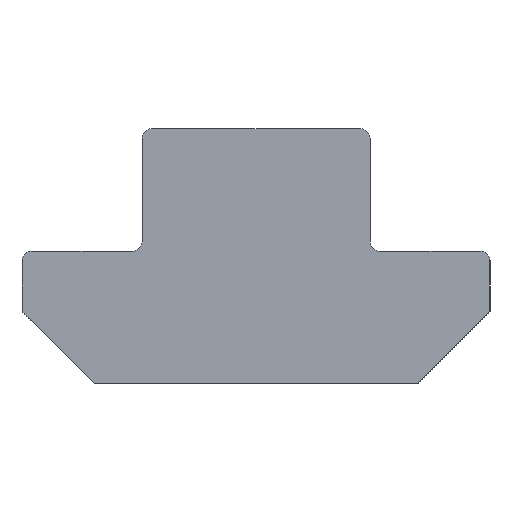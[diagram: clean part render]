
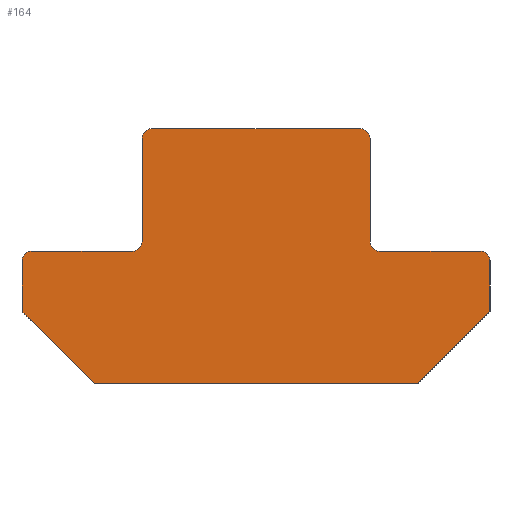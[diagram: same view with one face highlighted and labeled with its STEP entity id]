
A CAD part, left-side view. The second image highlights one B-rep face of the part: STEP entity #164.
In plain terms, the highlighted planar face has unit normal (-1, 0, 0).
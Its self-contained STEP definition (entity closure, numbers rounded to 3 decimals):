
#6 = DIRECTION ( 'NONE',  ( 0., 0., 1. ) ) ;
#7 = VECTOR ( 'NONE', #155, 1000. ) ;
#10 = CARTESIAN_POINT ( 'NONE',  ( -10., 9.75, -0.4 ) ) ;
#11 = DIRECTION ( 'NONE',  ( 1., 0., 0. ) ) ;
#13 = DIRECTION ( 'NONE',  ( 0., 0., 1. ) ) ;
#15 = VERTEX_POINT ( 'NONE', #441 ) ;
#16 = DIRECTION ( 'NONE',  ( 0., 0., 1. ) ) ;
#21 = LINE ( 'NONE', #585, #166 ) ;
#36 = CARTESIAN_POINT ( 'NONE',  ( -10., -4.35, -0.4 ) ) ;
#37 = ORIENTED_EDGE ( 'NONE', *, *, #531, .F. ) ;
#38 = CARTESIAN_POINT ( 'NONE',  ( -10., 4.75, -4.7 ) ) ;
#40 = EDGE_CURVE ( 'NONE', #505, #382, #703, .T. ) ;
#42 = CARTESIAN_POINT ( 'NONE',  ( -10., 5.15, -4.7 ) ) ;
#56 = DIRECTION ( 'NONE',  ( 0., 0., -1. ) ) ;
#57 = LINE ( 'NONE', #352, #499 ) ;
#60 = CARTESIAN_POINT ( 'NONE',  ( -10., 4.75, -0.4 ) ) ;
#78 = EDGE_CURVE ( 'NONE', #545, #132, #97, .T. ) ;
#82 = EDGE_CURVE ( 'NONE', #388, #382, #626, .T. ) ;
#83 = CARTESIAN_POINT ( 'NONE',  ( -10., -4.75, -0.4 ) ) ;
#84 = DIRECTION ( 'NONE',  ( 0., 0.707, 0.707 ) ) ;
#96 = EDGE_CURVE ( 'NONE', #132, #332, #57, .T. ) ;
#97 = LINE ( 'NONE', #323, #7 ) ;
#99 = AXIS2_PLACEMENT_3D ( 'NONE', #229, #11, #518 ) ;
#107 = CARTESIAN_POINT ( 'NONE',  ( -10., 9.35, -5.1 ) ) ;
#111 = AXIS2_PLACEMENT_3D ( 'NONE', #334, #165, #670 ) ;
#114 = EDGE_CURVE ( 'NONE', #231, #246, #613, .T. ) ;
#115 = FACE_OUTER_BOUND ( 'NONE', #142, .T. ) ;
#121 = DIRECTION ( 'NONE',  ( 0., -1., 0. ) ) ;
#123 = VECTOR ( 'NONE', #13, 1000. ) ;
#124 = ORIENTED_EDGE ( 'NONE', *, *, #226, .F. ) ;
#125 = EDGE_CURVE ( 'NONE', #246, #545, #487, .T. ) ;
#127 = ORIENTED_EDGE ( 'NONE', *, *, #125, .F. ) ;
#132 = VERTEX_POINT ( 'NONE', #222 ) ;
#134 = DIRECTION ( 'NONE',  ( 0., -1., 0. ) ) ;
#142 = EDGE_LOOP ( 'NONE', ( #124, #243, #685, #643, #37, #552, #436, #195, #391, #127, #483, #450, #258, #574, #549, #216 ) ) ;
#143 = DIRECTION ( 'NONE',  ( 1., 0., 0. ) ) ;
#144 = CARTESIAN_POINT ( 'NONE',  ( -10., -5.15, -5.1 ) ) ;
#149 = CARTESIAN_POINT ( 'NONE',  ( -10., 4.35, -0.4 ) ) ;
#150 = VERTEX_POINT ( 'NONE', #676 ) ;
#155 = DIRECTION ( 'NONE',  ( 0., 0., -1. ) ) ;
#164 = ADVANCED_FACE ( 'NONE', ( #115 ), #679, .F. ) ;
#165 = DIRECTION ( 'NONE',  ( 1., 0., 0. ) ) ;
#166 = VECTOR ( 'NONE', #84, 1000. ) ;
#167 = DIRECTION ( 'NONE',  ( 0., 0.707, -0.707 ) ) ;
#177 = DIRECTION ( 'NONE',  ( 1., 0., 0. ) ) ;
#193 = CIRCLE ( 'NONE', #607, 0.4 ) ;
#195 = ORIENTED_EDGE ( 'NONE', *, *, #96, .F. ) ;
#203 = DIRECTION ( 'NONE',  ( 0., -1., 0. ) ) ;
#213 = CARTESIAN_POINT ( 'NONE',  ( -10., 4.35, -5.1 ) ) ;
#216 = ORIENTED_EDGE ( 'NONE', *, *, #471, .F. ) ;
#217 = VECTOR ( 'NONE', #134, 1000. ) ;
#221 = LINE ( 'NONE', #563, #524 ) ;
#222 = CARTESIAN_POINT ( 'NONE',  ( -10., -9.75, -7.6 ) ) ;
#226 = EDGE_CURVE ( 'NONE', #388, #581, #346, .T. ) ;
#227 = LINE ( 'NONE', #10, #123 ) ;
#229 = CARTESIAN_POINT ( 'NONE',  ( -10., -9.35, -5.5 ) ) ;
#231 = VERTEX_POINT ( 'NONE', #144 ) ;
#242 = CIRCLE ( 'NONE', #681, 0.4 ) ;
#243 = ORIENTED_EDGE ( 'NONE', *, *, #82, .T. ) ;
#246 = VERTEX_POINT ( 'NONE', #359 ) ;
#249 = CARTESIAN_POINT ( 'NONE',  ( -10., -6.75, -10.6 ) ) ;
#256 = CARTESIAN_POINT ( 'NONE',  ( -10., -6.75, -10.6 ) ) ;
#258 = ORIENTED_EDGE ( 'NONE', *, *, #542, .F. ) ;
#260 = EDGE_CURVE ( 'NONE', #636, #533, #21, .T. ) ;
#277 = VECTOR ( 'NONE', #121, 1000. ) ;
#280 = CARTESIAN_POINT ( 'NONE',  ( -10., 9.75, -5.5 ) ) ;
#283 = CARTESIAN_POINT ( 'NONE',  ( -10., 4.75, -0.4 ) ) ;
#298 = LINE ( 'NONE', #520, #217 ) ;
#316 = EDGE_CURVE ( 'NONE', #636, #332, #684, .T. ) ;
#323 = CARTESIAN_POINT ( 'NONE',  ( -10., -9.75, -0.4 ) ) ;
#324 = EDGE_CURVE ( 'NONE', #559, #150, #298, .T. ) ;
#332 = VERTEX_POINT ( 'NONE', #249 ) ;
#334 = CARTESIAN_POINT ( 'NONE',  ( -10., -5.15, -4.7 ) ) ;
#337 = CIRCLE ( 'NONE', #605, 0.4 ) ;
#341 = CARTESIAN_POINT ( 'NONE',  ( -10., 6.75, -10.6 ) ) ;
#346 = LINE ( 'NONE', #60, #476 ) ;
#349 = AXIS2_PLACEMENT_3D ( 'NONE', #42, #384, #6 ) ;
#352 = CARTESIAN_POINT ( 'NONE',  ( -10., -9.75, -7.6 ) ) ;
#359 = CARTESIAN_POINT ( 'NONE',  ( -10., -9.35, -5.1 ) ) ;
#382 = VERTEX_POINT ( 'NONE', #652 ) ;
#384 = DIRECTION ( 'NONE',  ( 1., 0., 0. ) ) ;
#388 = VERTEX_POINT ( 'NONE', #38 ) ;
#391 = ORIENTED_EDGE ( 'NONE', *, *, #78, .F. ) ;
#433 = CIRCLE ( 'NONE', #111, 0.4 ) ;
#434 = EDGE_CURVE ( 'NONE', #150, #692, #242, .T. ) ;
#436 = ORIENTED_EDGE ( 'NONE', *, *, #316, .T. ) ;
#441 = CARTESIAN_POINT ( 'NONE',  ( -10., -4.75, -4.7 ) ) ;
#449 = CARTESIAN_POINT ( 'NONE',  ( -10., 4.35, -0.4 ) ) ;
#450 = ORIENTED_EDGE ( 'NONE', *, *, #567, .T. ) ;
#455 = DIRECTION ( 'NONE',  ( 0., 0., -1. ) ) ;
#471 = EDGE_CURVE ( 'NONE', #581, #559, #337, .T. ) ;
#472 = CARTESIAN_POINT ( 'NONE',  ( -10., 9.35, -5.5 ) ) ;
#476 = VECTOR ( 'NONE', #514, 1000. ) ;
#483 = ORIENTED_EDGE ( 'NONE', *, *, #114, .F. ) ;
#487 = CIRCLE ( 'NONE', #99, 0.4 ) ;
#490 = DIRECTION ( 'NONE',  ( 0., 0., 1. ) ) ;
#496 = DIRECTION ( 'NONE',  ( 1., 0., 0. ) ) ;
#499 = VECTOR ( 'NONE', #167, 1000. ) ;
#505 = VERTEX_POINT ( 'NONE', #107 ) ;
#508 = CARTESIAN_POINT ( 'NONE',  ( -10., 4.35, -5.1 ) ) ;
#514 = DIRECTION ( 'NONE',  ( 0., 0., 1. ) ) ;
#516 = CARTESIAN_POINT ( 'NONE',  ( -10., -9.75, -5.5 ) ) ;
#518 = DIRECTION ( 'NONE',  ( 0., 0., 1. ) ) ;
#520 = CARTESIAN_POINT ( 'NONE',  ( -10., 4.35, 0. ) ) ;
#524 = VECTOR ( 'NONE', #56, 1000. ) ;
#530 = VERTEX_POINT ( 'NONE', #280 ) ;
#531 = EDGE_CURVE ( 'NONE', #533, #530, #227, .T. ) ;
#533 = VERTEX_POINT ( 'NONE', #569 ) ;
#542 = EDGE_CURVE ( 'NONE', #692, #15, #221, .T. ) ;
#545 = VERTEX_POINT ( 'NONE', #516 ) ;
#548 = DIRECTION ( 'NONE',  ( 0., 0., 1. ) ) ;
#549 = ORIENTED_EDGE ( 'NONE', *, *, #324, .F. ) ;
#552 = ORIENTED_EDGE ( 'NONE', *, *, #260, .F. ) ;
#559 = VERTEX_POINT ( 'NONE', #610 ) ;
#563 = CARTESIAN_POINT ( 'NONE',  ( -10., -4.75, -0.4 ) ) ;
#567 = EDGE_CURVE ( 'NONE', #231, #15, #433, .T. ) ;
#569 = CARTESIAN_POINT ( 'NONE',  ( -10., 9.75, -7.6 ) ) ;
#574 = ORIENTED_EDGE ( 'NONE', *, *, #434, .F. ) ;
#577 = VECTOR ( 'NONE', #203, 1000. ) ;
#581 = VERTEX_POINT ( 'NONE', #283 ) ;
#585 = CARTESIAN_POINT ( 'NONE',  ( -10., 6.75, -10.6 ) ) ;
#597 = DIRECTION ( 'NONE',  ( 1., 0., 0. ) ) ;
#603 = VECTOR ( 'NONE', #645, 1000. ) ;
#605 = AXIS2_PLACEMENT_3D ( 'NONE', #149, #496, #490 ) ;
#607 = AXIS2_PLACEMENT_3D ( 'NONE', #472, #143, #16 ) ;
#610 = CARTESIAN_POINT ( 'NONE',  ( -10., 4.35, 0. ) ) ;
#613 = LINE ( 'NONE', #508, #277 ) ;
#626 = CIRCLE ( 'NONE', #349, 0.4 ) ;
#636 = VERTEX_POINT ( 'NONE', #341 ) ;
#643 = ORIENTED_EDGE ( 'NONE', *, *, #697, .F. ) ;
#645 = DIRECTION ( 'NONE',  ( 0., -1., 0. ) ) ;
#652 = CARTESIAN_POINT ( 'NONE',  ( -10., 5.15, -5.1 ) ) ;
#670 = DIRECTION ( 'NONE',  ( 0., 0., 1. ) ) ;
#676 = CARTESIAN_POINT ( 'NONE',  ( -10., -4.35, 0. ) ) ;
#679 = PLANE ( 'NONE',  #693 ) ;
#681 = AXIS2_PLACEMENT_3D ( 'NONE', #36, #597, #548 ) ;
#684 = LINE ( 'NONE', #256, #603 ) ;
#685 = ORIENTED_EDGE ( 'NONE', *, *, #40, .F. ) ;
#692 = VERTEX_POINT ( 'NONE', #83 ) ;
#693 = AXIS2_PLACEMENT_3D ( 'NONE', #449, #177, #455 ) ;
#697 = EDGE_CURVE ( 'NONE', #530, #505, #193, .T. ) ;
#703 = LINE ( 'NONE', #213, #577 ) ;
